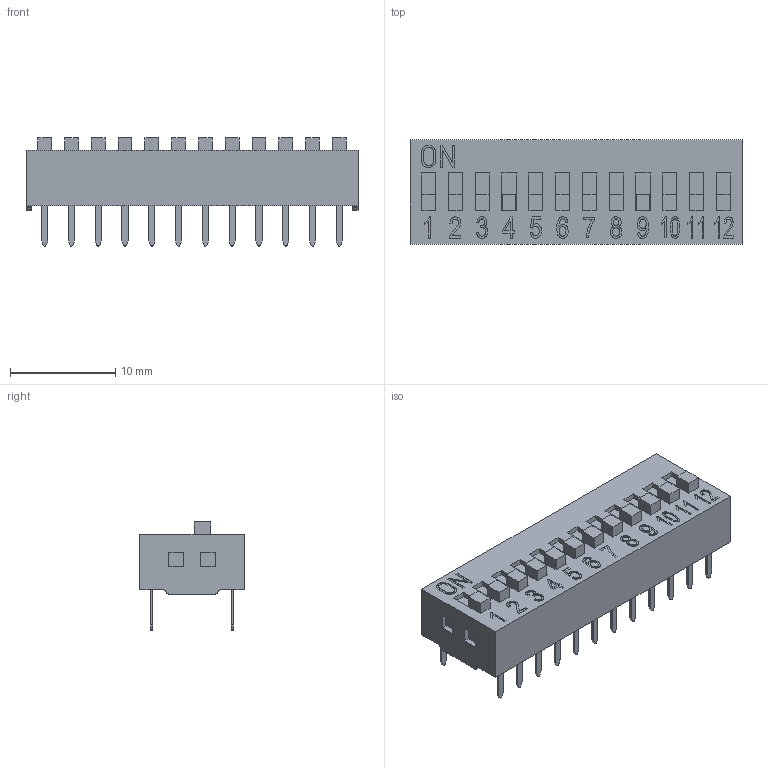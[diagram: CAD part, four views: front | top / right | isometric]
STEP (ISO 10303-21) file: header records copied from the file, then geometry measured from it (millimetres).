
FILE_DESCRIPTION(('FreeCAD Model'),'2;1');
FILE_NAME('C:/Users/Metaltex-99/Desktop/DS-12.stp','2020-08-11T08:55:46' ,('Engenharia Metaltex'),('Metaltex'), 'Open CASCADE STEP processor 7.3','FreeCAD','Unknown');
FILE_SCHEMA(('AUTOMOTIVE_DESIGN { 1 0 10303 214 1 1 1 1 }'));
Products named in the file (1): DS-12
Bounding box: 31.48 x 9.9 x 10.25 mm (x, y, z)
Surface area: 3313.6 mm2 (no closed solid volume)
Topology: 0 solids, 38 shells, 896 faces, 2280 edges, 1520 vertices
Faces by surface type: plane 680, bspline 112, cylinder 104
Entity records: 57836 total; most frequent: CARTESIAN_POINT 12737, DIRECTION 7746, LINE 5752, VECTOR 5752, ORIENTED_EDGE 4560, PCURVE 4560, DEFINITIONAL_REPRESENTATION 4560, EDGE_CURVE 2280
